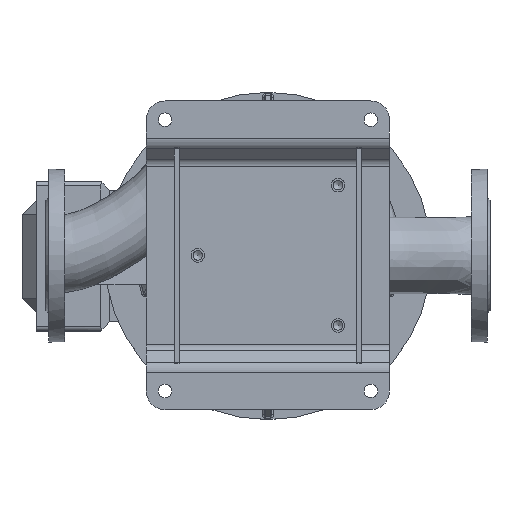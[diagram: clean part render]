
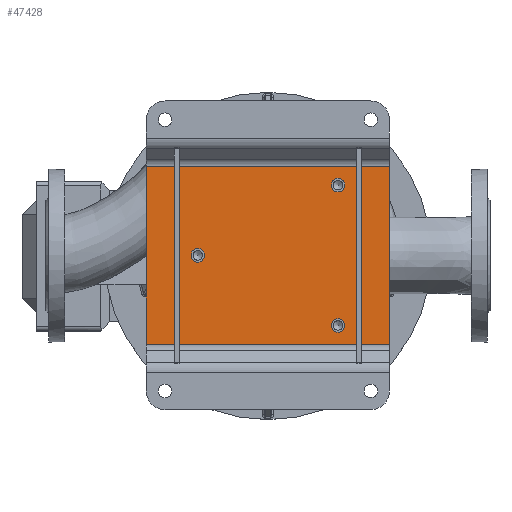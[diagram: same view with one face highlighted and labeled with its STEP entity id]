
A CAD part, top view. The second image highlights one B-rep face of the part: STEP entity #47428.
In plain terms, the highlighted planar face has unit normal (0, 0, 1) as drawn and (0, -1, 0) by its records, which use the part's own axes.
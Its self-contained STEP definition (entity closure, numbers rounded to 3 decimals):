
#199 = DIRECTION ( 'NONE',  ( 0., -1., 0. ) ) ;
#2741 = ORIENTED_EDGE ( 'NONE', *, *, #4589, .F. ) ;
#3092 = ORIENTED_EDGE ( 'NONE', *, *, #17130, .F. ) ;
#4111 = ORIENTED_EDGE ( 'NONE', *, *, #6621, .F. ) ;
#4589 = EDGE_CURVE ( 'NONE', #55576, #14596, #26394, .T. ) ;
#6120 = CARTESIAN_POINT ( 'NONE',  ( 0., -5., -82.25 ) ) ;
#6621 = EDGE_CURVE ( 'NONE', #22083, #22083, #53770, .T. ) ;
#7767 = ORIENTED_EDGE ( 'NONE', *, *, #24671, .F. ) ;
#8109 = CARTESIAN_POINT ( 'NONE',  ( 95., -5., -130. ) ) ;
#8292 = DIRECTION ( 'NONE',  ( 1., 0., 0. ) ) ;
#8386 = AXIS2_PLACEMENT_3D ( 'NONE', #30536, #34528, #55754 ) ;
#8470 = VECTOR ( 'NONE', #31154, 1000. ) ;
#9232 = ORIENTED_EDGE ( 'NONE', *, *, #52864, .F. ) ;
#9489 = DIRECTION ( 'NONE',  ( 0., -1., 0. ) ) ;
#9796 = VERTEX_POINT ( 'NONE', #6120 ) ;
#11144 = CARTESIAN_POINT ( 'NONE',  ( 75., -5., 75. ) ) ;
#11382 = ORIENTED_EDGE ( 'NONE', *, *, #37653, .F. ) ;
#13067 = EDGE_LOOP ( 'NONE', ( #2741, #7767, #11382, #21599 ) ) ;
#14395 = AXIS2_PLACEMENT_3D ( 'NONE', #40650, #9489, #23656 ) ;
#14596 = VERTEX_POINT ( 'NONE', #8109 ) ;
#17130 = EDGE_CURVE ( 'NONE', #48968, #48968, #41553, .T. ) ;
#17197 = FACE_OUTER_BOUND ( 'NONE', #13067, .T. ) ;
#17876 = VECTOR ( 'NONE', #49022, 1000. ) ;
#21453 = FACE_BOUND ( 'NONE', #48865, .T. ) ;
#21599 = ORIENTED_EDGE ( 'NONE', *, *, #43588, .F. ) ;
#22083 = VERTEX_POINT ( 'NONE', #52625 ) ;
#23656 = DIRECTION ( 'NONE',  ( 0., 0., -1. ) ) ;
#24022 = AXIS2_PLACEMENT_3D ( 'NONE', #39018, #199, #30505 ) ;
#24663 = CARTESIAN_POINT ( 'NONE',  ( -95., -5., 130. ) ) ;
#24671 = EDGE_CURVE ( 'NONE', #36157, #55576, #55324, .T. ) ;
#24773 = CARTESIAN_POINT ( 'NONE',  ( -95., -5., 130. ) ) ;
#26269 = VERTEX_POINT ( 'NONE', #36344 ) ;
#26394 = LINE ( 'NONE', #27513, #17876 ) ;
#27513 = CARTESIAN_POINT ( 'NONE',  ( 95., -5., 130. ) ) ;
#29061 = VECTOR ( 'NONE', #36577, 1000. ) ;
#29366 = AXIS2_PLACEMENT_3D ( 'NONE', #11144, #33542, #45730 ) ;
#30505 = DIRECTION ( 'NONE',  ( 0., 0., -1. ) ) ;
#30536 = CARTESIAN_POINT ( 'NONE',  ( 0., -5., -75. ) ) ;
#31154 = DIRECTION ( 'NONE',  ( -1., 0., 0. ) ) ;
#31436 = CARTESIAN_POINT ( 'NONE',  ( -95., -5., -130. ) ) ;
#33376 = CARTESIAN_POINT ( 'NONE',  ( -95., -5., 130. ) ) ;
#33542 = DIRECTION ( 'NONE',  ( 0., -1., 0. ) ) ;
#34496 = PLANE ( 'NONE',  #24022 ) ;
#34528 = DIRECTION ( 'NONE',  ( 0., -1., 0. ) ) ;
#36157 = VERTEX_POINT ( 'NONE', #24663 ) ;
#36344 = CARTESIAN_POINT ( 'NONE',  ( -95., -5., -130. ) ) ;
#36577 = DIRECTION ( 'NONE',  ( 0., 0., 1. ) ) ;
#37624 = LINE ( 'NONE', #33376, #29061 ) ;
#37653 = EDGE_CURVE ( 'NONE', #26269, #36157, #37624, .T. ) ;
#38740 = FACE_BOUND ( 'NONE', #54180, .T. ) ;
#39018 = CARTESIAN_POINT ( 'NONE',  ( 0., -5., 0. ) ) ;
#40650 = CARTESIAN_POINT ( 'NONE',  ( -75., -5., 75. ) ) ;
#41307 = CARTESIAN_POINT ( 'NONE',  ( -75., -5., 67.75 ) ) ;
#41553 = CIRCLE ( 'NONE', #14395, 7.25 ) ;
#43588 = EDGE_CURVE ( 'NONE', #14596, #26269, #43622, .T. ) ;
#43622 = LINE ( 'NONE', #31436, #8470 ) ;
#43664 = VECTOR ( 'NONE', #8292, 1000. ) ;
#45730 = DIRECTION ( 'NONE',  ( 0., 0., -1. ) ) ;
#47428 = ADVANCED_FACE ( 'NONE', ( #21453, #38740, #56002, #17197 ), #34496, .T. ) ;
#47470 = EDGE_LOOP ( 'NONE', ( #3092 ) ) ;
#48865 = EDGE_LOOP ( 'NONE', ( #4111 ) ) ;
#48968 = VERTEX_POINT ( 'NONE', #41307 ) ;
#49022 = DIRECTION ( 'NONE',  ( 0., 0., -1. ) ) ;
#52625 = CARTESIAN_POINT ( 'NONE',  ( 75., -5., 67.75 ) ) ;
#52864 = EDGE_CURVE ( 'NONE', #9796, #9796, #55416, .T. ) ;
#53770 = CIRCLE ( 'NONE', #29366, 7.25 ) ;
#54061 = CARTESIAN_POINT ( 'NONE',  ( 95., -5., 130. ) ) ;
#54180 = EDGE_LOOP ( 'NONE', ( #9232 ) ) ;
#55324 = LINE ( 'NONE', #24773, #43664 ) ;
#55416 = CIRCLE ( 'NONE', #8386, 7.25 ) ;
#55576 = VERTEX_POINT ( 'NONE', #54061 ) ;
#55754 = DIRECTION ( 'NONE',  ( 0., 0., -1. ) ) ;
#56002 = FACE_BOUND ( 'NONE', #47470, .T. ) ;
